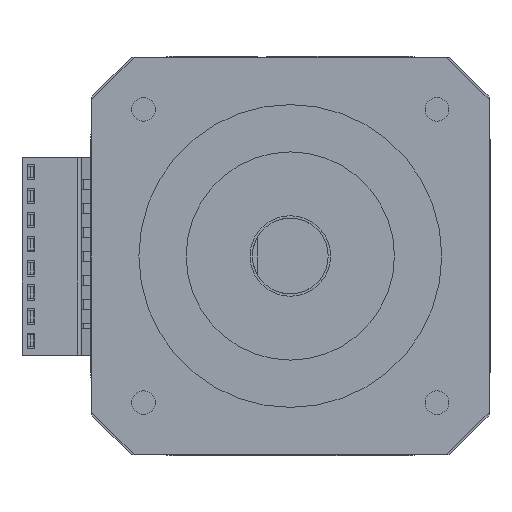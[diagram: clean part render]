
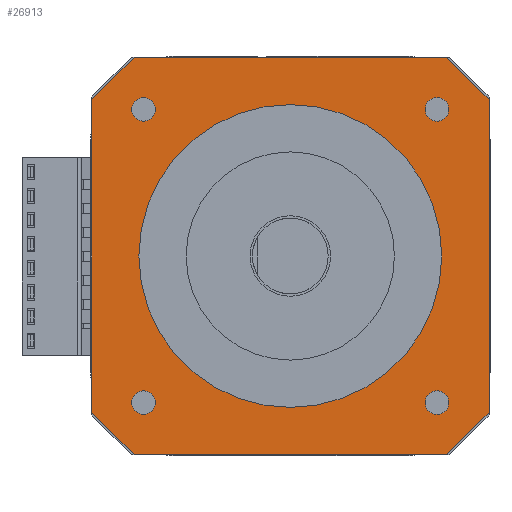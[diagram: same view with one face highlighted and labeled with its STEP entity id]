
A CAD part, front view. The second image highlights one B-rep face of the part: STEP entity #26913.
In plain terms, the highlighted planar face has unit normal (0, -1, 0).
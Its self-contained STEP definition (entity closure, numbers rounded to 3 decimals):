
#1422=DIRECTION('',(0.707,0.,-0.707));
#1423=VECTOR('',#1422,6.364);
#1424=CARTESIAN_POINT('',(37.5,24.,0.));
#1425=LINE('',#1424,#1423);
#1426=DIRECTION('',(0.,0.,-1.));
#1427=VECTOR('',#1426,33.);
#1428=CARTESIAN_POINT('',(42.,24.,-4.5));
#1429=LINE('',#1428,#1427);
#1430=DIRECTION('',(-0.707,0.,-0.707));
#1431=VECTOR('',#1430,6.364);
#1432=CARTESIAN_POINT('',(42.,24.,-37.5));
#1433=LINE('',#1432,#1431);
#1434=DIRECTION('',(-0.707,0.,0.707));
#1435=VECTOR('',#1434,6.364);
#1436=CARTESIAN_POINT('',(4.5,24.,-42.));
#1437=LINE('',#1436,#1435);
#1438=DIRECTION('',(0.707,0.,0.707));
#1439=VECTOR('',#1438,6.364);
#1440=CARTESIAN_POINT('',(0.,24.,-4.5));
#1441=LINE('',#1440,#1439);
#1442=CARTESIAN_POINT('',(5.5,24.,-36.5));
#1443=DIRECTION('',(0.,-1.,0.));
#1444=DIRECTION('',(-1.,0.,0.));
#1445=AXIS2_PLACEMENT_3D('',#1442,#1443,#1444);
#1447=CARTESIAN_POINT('',(5.5,24.,-36.5));
#1448=DIRECTION('',(0.,-1.,0.));
#1449=DIRECTION('',(1.,0.,0.));
#1450=AXIS2_PLACEMENT_3D('',#1447,#1448,#1449);
#1452=CARTESIAN_POINT('',(36.5,24.,-36.5));
#1453=DIRECTION('',(0.,-1.,0.));
#1454=DIRECTION('',(-1.,0.,0.));
#1455=AXIS2_PLACEMENT_3D('',#1452,#1453,#1454);
#1457=CARTESIAN_POINT('',(36.5,24.,-36.5));
#1458=DIRECTION('',(0.,-1.,0.));
#1459=DIRECTION('',(1.,0.,0.));
#1460=AXIS2_PLACEMENT_3D('',#1457,#1458,#1459);
#1462=CARTESIAN_POINT('',(5.5,24.,-5.5));
#1463=DIRECTION('',(0.,-1.,0.));
#1464=DIRECTION('',(-1.,0.,0.));
#1465=AXIS2_PLACEMENT_3D('',#1462,#1463,#1464);
#1467=CARTESIAN_POINT('',(5.5,24.,-5.5));
#1468=DIRECTION('',(0.,-1.,0.));
#1469=DIRECTION('',(1.,0.,0.));
#1470=AXIS2_PLACEMENT_3D('',#1467,#1468,#1469);
#1472=CARTESIAN_POINT('',(36.5,24.,-5.5));
#1473=DIRECTION('',(0.,-1.,0.));
#1474=DIRECTION('',(-1.,0.,0.));
#1475=AXIS2_PLACEMENT_3D('',#1472,#1473,#1474);
#1477=CARTESIAN_POINT('',(36.5,24.,-5.5));
#1478=DIRECTION('',(0.,-1.,0.));
#1479=DIRECTION('',(1.,0.,0.));
#1480=AXIS2_PLACEMENT_3D('',#1477,#1478,#1479);
#1482=CARTESIAN_POINT('',(21.,24.,-21.));
#1483=DIRECTION('',(0.,-1.,0.));
#1484=DIRECTION('',(-1.,0.,0.));
#1485=AXIS2_PLACEMENT_3D('',#1482,#1483,#1484);
#1487=CARTESIAN_POINT('',(21.,24.,-21.));
#1488=DIRECTION('',(0.,-1.,0.));
#1489=DIRECTION('',(1.,0.,0.));
#1490=AXIS2_PLACEMENT_3D('',#1487,#1488,#1489);
#1500=DIRECTION('',(-1.,0.,0.));
#1501=VECTOR('',#1500,33.);
#1502=CARTESIAN_POINT('',(37.5,24.,0.));
#1503=LINE('',#1502,#1501);
#7371=DIRECTION('',(0.,0.,-1.));
#7372=VECTOR('',#7371,33.);
#7373=CARTESIAN_POINT('',(0.,24.,-4.5));
#7374=LINE('',#7373,#7372);
#7391=DIRECTION('',(1.,0.,0.));
#7392=VECTOR('',#7391,33.);
#7393=CARTESIAN_POINT('',(4.5,24.,-42.));
#7394=LINE('',#7393,#7392);
#18559=CARTESIAN_POINT('',(42.,24.,-37.5));
#18561=VERTEX_POINT('',#18559);
#18567=CARTESIAN_POINT('',(42.,24.,-4.5));
#18568=VERTEX_POINT('',#18567);
#18569=CARTESIAN_POINT('',(37.5,24.,0.));
#18571=VERTEX_POINT('',#18569);
#18577=CARTESIAN_POINT('',(4.5,24.,0.));
#18578=VERTEX_POINT('',#18577);
#18581=CARTESIAN_POINT('',(0.,24.,-4.5));
#18582=VERTEX_POINT('',#18581);
#18589=CARTESIAN_POINT('',(0.,24.,-37.5));
#18590=VERTEX_POINT('',#18589);
#18593=CARTESIAN_POINT('',(4.5,24.,-42.));
#18594=VERTEX_POINT('',#18593);
#18601=CARTESIAN_POINT('',(37.5,24.,-42.));
#18602=VERTEX_POINT('',#18601);
#18603=CARTESIAN_POINT('',(6.75,24.,-36.5));
#18604=VERTEX_POINT('',#18603);
#18605=CARTESIAN_POINT('',(4.25,24.,-36.5));
#18606=VERTEX_POINT('',#18605);
#18607=CARTESIAN_POINT('',(37.75,24.,-36.5));
#18608=VERTEX_POINT('',#18607);
#18609=CARTESIAN_POINT('',(35.25,24.,-36.5));
#18610=VERTEX_POINT('',#18609);
#18611=CARTESIAN_POINT('',(6.75,24.,-5.5));
#18612=VERTEX_POINT('',#18611);
#18613=CARTESIAN_POINT('',(4.25,24.,-5.5));
#18614=VERTEX_POINT('',#18613);
#18615=CARTESIAN_POINT('',(37.75,24.,-5.5));
#18616=VERTEX_POINT('',#18615);
#18617=CARTESIAN_POINT('',(35.25,24.,-5.5));
#18618=VERTEX_POINT('',#18617);
#18620=CARTESIAN_POINT('',(37.,24.,-21.));
#18622=VERTEX_POINT('',#18620);
#18625=CARTESIAN_POINT('',(5.,24.,-21.));
#18626=VERTEX_POINT('',#18625);
#26862=CARTESIAN_POINT('',(21.,24.,-21.));
#26863=DIRECTION('',(0.,1.,0.));
#26864=DIRECTION('',(1.,0.,0.));
#26865=AXIS2_PLACEMENT_3D('',#26862,#26863,#26864);
#26866=PLANE('',#26865);
#26868=ORIENTED_EDGE('',*,*,#26867,.F.);
#26870=ORIENTED_EDGE('',*,*,#26869,.T.);
#26872=ORIENTED_EDGE('',*,*,#26871,.T.);
#26874=ORIENTED_EDGE('',*,*,#26873,.T.);
#26876=ORIENTED_EDGE('',*,*,#26875,.F.);
#26878=ORIENTED_EDGE('',*,*,#26877,.T.);
#26880=ORIENTED_EDGE('',*,*,#26879,.F.);
#26882=ORIENTED_EDGE('',*,*,#26881,.T.);
#26883=EDGE_LOOP('',(#26868,#26870,#26872,#26874,#26876,#26878,#26880,#26882));
#26884=FACE_OUTER_BOUND('',#26883,.F.);
#26886=ORIENTED_EDGE('',*,*,#26885,.T.);
#26888=ORIENTED_EDGE('',*,*,#26887,.T.);
#26889=EDGE_LOOP('',(#26886,#26888));
#26890=FACE_BOUND('',#26889,.F.);
#26892=ORIENTED_EDGE('',*,*,#26891,.T.);
#26894=ORIENTED_EDGE('',*,*,#26893,.T.);
#26895=EDGE_LOOP('',(#26892,#26894));
#26896=FACE_BOUND('',#26895,.F.);
#26898=ORIENTED_EDGE('',*,*,#26897,.T.);
#26900=ORIENTED_EDGE('',*,*,#26899,.T.);
#26901=EDGE_LOOP('',(#26898,#26900));
#26902=FACE_BOUND('',#26901,.F.);
#26904=ORIENTED_EDGE('',*,*,#26903,.T.);
#26906=ORIENTED_EDGE('',*,*,#26905,.T.);
#26907=EDGE_LOOP('',(#26904,#26906));
#26908=FACE_BOUND('',#26907,.F.);
#26909=ORIENTED_EDGE('',*,*,#26827,.T.);
#26910=ORIENTED_EDGE('',*,*,#26849,.T.);
#26911=EDGE_LOOP('',(#26909,#26910));
#26912=FACE_BOUND('',#26911,.F.);
#26913=ADVANCED_FACE('',(#26884,#26890,#26896,#26902,#26908,#26912),#26866,.F.);
#1446=CIRCLE('',#1445,1.25);
#1451=CIRCLE('',#1450,1.25);
#1456=CIRCLE('',#1455,1.25);
#1461=CIRCLE('',#1460,1.25);
#1466=CIRCLE('',#1465,1.25);
#1471=CIRCLE('',#1470,1.25);
#1476=CIRCLE('',#1475,1.25);
#1481=CIRCLE('',#1480,1.25);
#1486=CIRCLE('',#1485,16.);
#1491=CIRCLE('',#1490,16.);
#26827=EDGE_CURVE('',#18626,#18622,#1486,.T.);
#26849=EDGE_CURVE('',#18622,#18626,#1491,.T.);
#26867=EDGE_CURVE('',#18571,#18578,#1503,.T.);
#26869=EDGE_CURVE('',#18571,#18568,#1425,.T.);
#26871=EDGE_CURVE('',#18568,#18561,#1429,.T.);
#26873=EDGE_CURVE('',#18561,#18602,#1433,.T.);
#26875=EDGE_CURVE('',#18594,#18602,#7394,.T.);
#26877=EDGE_CURVE('',#18594,#18590,#1437,.T.);
#26879=EDGE_CURVE('',#18582,#18590,#7374,.T.);
#26881=EDGE_CURVE('',#18582,#18578,#1441,.T.);
#26885=EDGE_CURVE('',#18606,#18604,#1446,.T.);
#26887=EDGE_CURVE('',#18604,#18606,#1451,.T.);
#26891=EDGE_CURVE('',#18610,#18608,#1456,.T.);
#26893=EDGE_CURVE('',#18608,#18610,#1461,.T.);
#26897=EDGE_CURVE('',#18614,#18612,#1466,.T.);
#26899=EDGE_CURVE('',#18612,#18614,#1471,.T.);
#26903=EDGE_CURVE('',#18618,#18616,#1476,.T.);
#26905=EDGE_CURVE('',#18616,#18618,#1481,.T.);
